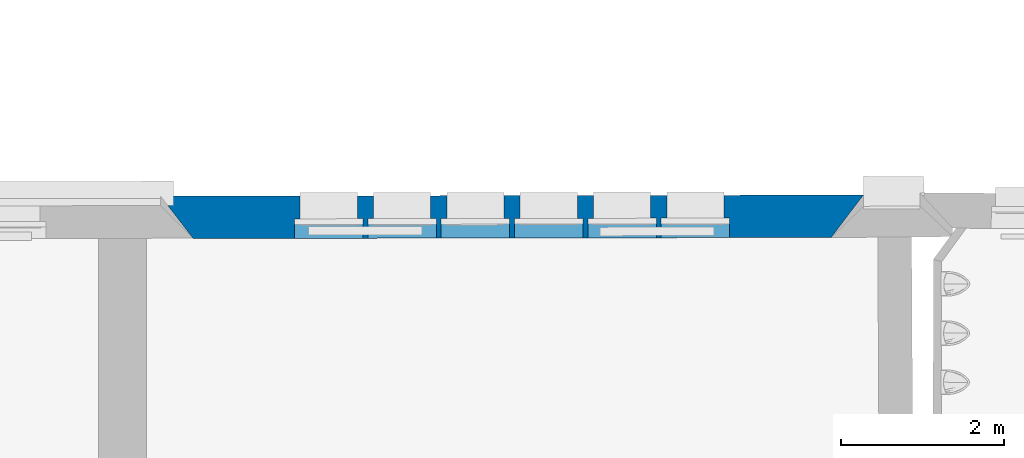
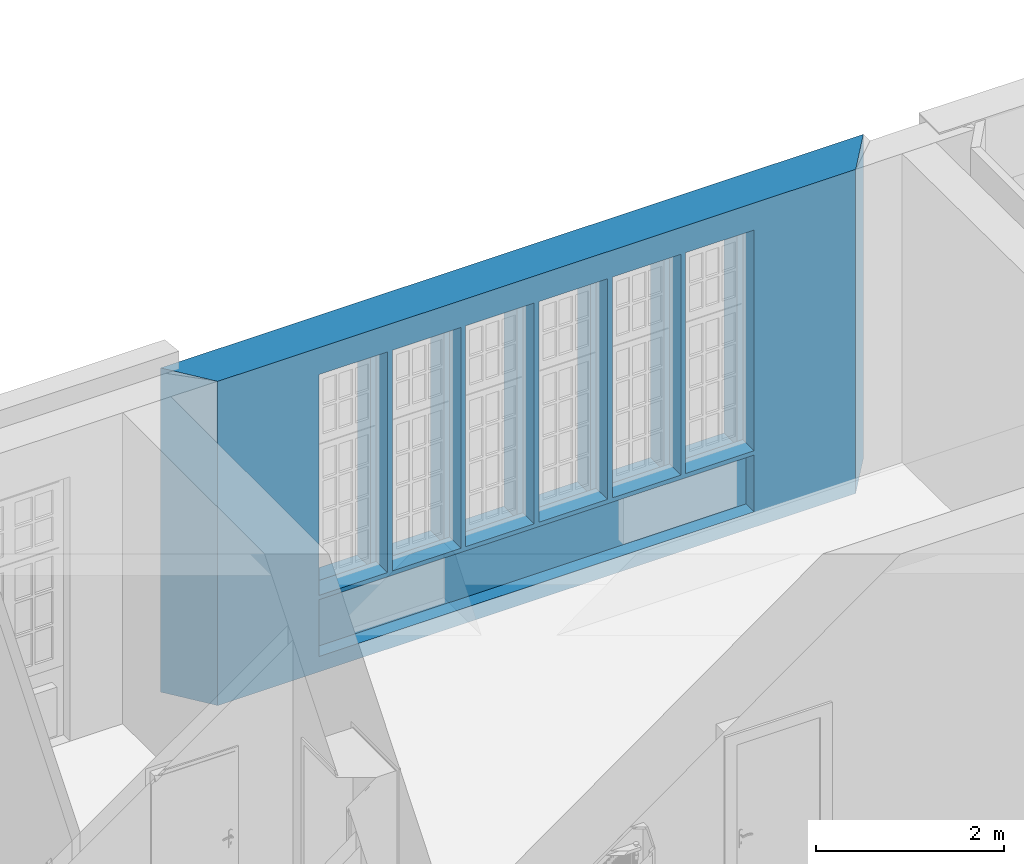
# One storey, part 34 of 90: 1 wall, 7 openings.
"""IFC2X3 building model written with IfcOpenShell, lengths in metres."""

from ifc_helpers import new_model, entity, si_unit, converted_unit, derived_unit, money_unit, direction, frame, origin_with_axes, origin_2d_with_axis, place, context, subcontext, project, spatial, polyline, rectangle, outline, extrude, material, layer, layer_set, layer_usage, type_object, element, save


model = new_model("IFC2X3")

# Units and contexts
model_context = context("Model", 3, precision=1e-05, world=origin_with_axes(), true_north=direction((0.0, 1.0)))
body_context = subcontext(model_context, "Body", "Model", "MODEL_VIEW")
ifc_project = project(units=[si_unit("LENGTHUNIT", "METRE"), si_unit("AREAUNIT", "SQUARE_METRE"), si_unit("VOLUMEUNIT", "CUBIC_METRE"), converted_unit("PLANEANGLEUNIT", "DEGREE", entity("IfcPlaneAngleMeasure", 0.0174532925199), si_unit("PLANEANGLEUNIT", "RADIAN"), dimensions=[0, 0, 0, 0, 0, 0, 0]), money_unit("EUR"), converted_unit("TIMEUNIT", "Year", entity("IfcTimeMeasure", 31556926.0), si_unit("TIMEUNIT", "SECOND"), dimensions=[0, 0, 1, 0, 0, 0, 0]), si_unit("MASSUNIT", "GRAM", prefix="KILO"), si_unit("THERMODYNAMICTEMPERATUREUNIT", "DEGREE_CELSIUS"), si_unit("LUMINOUSINTENSITYUNIT", "LUMEN"), si_unit("ENERGYUNIT", "JOULE", prefix="MEGA"), derived_unit("THERMALCONDUCTANCEUNIT", [(si_unit("POWERUNIT", "WATT"), 1), (si_unit("LENGTHUNIT", "METRE"), -1), (si_unit("THERMODYNAMICTEMPERATUREUNIT", "KELVIN"), -1)]), derived_unit("SPECIFICHEATCAPACITYUNIT", [(si_unit("ENERGYUNIT", "JOULE"), 1), (si_unit("MASSUNIT", "GRAM", prefix="KILO"), -1), (si_unit("THERMODYNAMICTEMPERATUREUNIT", "KELVIN"), -1)]), derived_unit("MASSDENSITYUNIT", [(si_unit("MASSUNIT", "GRAM", prefix="KILO"), 1), (si_unit("VOLUMEUNIT", "CUBIC_METRE"), -1)])], contexts=[model_context])

# Site, building, storey
site_placement = place(None, origin_with_axes())
site = spatial("IfcSite", under=ifc_project, at=site_placement, Name="Gelände", CompositionType="ELEMENT")
building_placement = place(site_placement, origin_with_axes())
building = spatial("IfcBuilding", under=site, at=building_placement, Name="Gebäude", CompositionType="ELEMENT")
storey_placement = place(building_placement, frame((0.0, 0.0, 3.7), z_axis=(0.0, 0.0, 1.0), x_axis=(1.0, 0.0, 0.0)))
storey = spatial("IfcBuildingStorey", under=building, at=storey_placement, Name="1.OBERGESCHOSS", CompositionType="ELEMENT", Elevation=3.7)

# Wall, openings
ifc_material = material(Name="05_ALLGEMEIN - TRAGENDE BAUTEILE")
ifc_layer = layer(ifc_material, 0.52, ventilated="UNKNOWN")
ifc_layer_set = layer_set([ifc_layer], Name="05_ALLGEMEIN - TRAGENDE BAUTEILE 0.52")
ifc_layer_usage = layer_usage(ifc_layer_set, "AXIS2", "NEGATIVE", 0.52)
wall_type = type_object("IfcWallType", Name="05_ALLGEMEIN - TRAGENDE BAUTEILE 520", PredefinedType="ELEMENTEDWALL")
wall_placement = place(storey_placement, frame((12.3515106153, 26.2024372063, -0.1), z_axis=(0.0, 0.0, 1.0), x_axis=(-0.999998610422, -0.00166707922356, 0.0)))
wall = element("IfcWallStandardCase", 1, at=wall_placement, inside=storey, type_object=wall_type, material=ifc_layer_usage, Name="Wand-036", ObjectType="ELEMENTEDWALL", context=body_context, shape_type="SweptSolid", body=[
    extrude(outline(polyline([(0.0, 0.0), (8.62098742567, 0.0), (8.22185375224, 0.52), (0.396027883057, 0.52), (0.0, 0.0)])), origin_with_axes(), (0.0, 0.0, 1.0), 4.2),
])
opening_1_placement = place(wall_placement, frame((2.06101299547, 0.0, 0.991568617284), z_axis=(0.0, 0.0, 1.0), x_axis=(1.0, 0.0, 0.0)))
element("IfcOpeningElement", 2, at=opening_1_placement, cuts=wall, Name="Fenster-015", context=body_context, shape_type="SweptSolid", body=[
    extrude(rectangle(XDim=0.700207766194, YDim=2.79, at=origin_2d_with_axis()), frame((0.0, 0.28, 1.335), z_axis=(0.0, 1.0, 0.0), x_axis=(1.0, 0.0, 0.0)), (0.0, 0.0, -1.0), 0.8),
    extrude(rectangle(XDim=0.840207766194, YDim=2.86, at=origin_2d_with_axis()), frame((0.0, 0.35, 1.43), z_axis=(0.0, -1.0, 0.0), x_axis=(1.0, 0.0, 0.0)), (0.0, 0.0, -1.0), 0.69),
    extrude(rectangle(XDim=0.840207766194, YDim=2.8, at=origin_2d_with_axis()), frame((0.0, 0.28, 1.4), z_axis=(0.0, 1.0, 0.0), x_axis=(1.0, 0.0, 0.0)), (0.0, 0.0, 1.0), 0.07),
])
opening_2_placement = place(wall_placement, frame((2.96052250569, 0.0, 0.991568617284), z_axis=(0.0, 0.0, 1.0), x_axis=(1.0, 0.0, 0.0)))
element("IfcOpeningElement", 3, at=opening_2_placement, cuts=wall, Name="Fenster-015", context=body_context, shape_type="SweptSolid", body=[
    extrude(rectangle(XDim=0.700207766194, YDim=2.79, at=origin_2d_with_axis()), frame((0.0, 0.28, 1.335), z_axis=(0.0, 1.0, 0.0), x_axis=(1.0, 0.0, 0.0)), (0.0, 0.0, -1.0), 0.8),
    extrude(rectangle(XDim=0.840207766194, YDim=2.86, at=origin_2d_with_axis()), frame((0.0, 0.35, 1.43), z_axis=(0.0, -1.0, 0.0), x_axis=(1.0, 0.0, 0.0)), (0.0, 0.0, -1.0), 0.69),
    extrude(rectangle(XDim=0.840207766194, YDim=2.8, at=origin_2d_with_axis()), frame((0.0, 0.28, 1.4), z_axis=(0.0, 1.0, 0.0), x_axis=(1.0, 0.0, 0.0)), (0.0, 0.0, 1.0), 0.07),
])
opening_3_placement = place(wall_placement, frame((3.86003201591, 0.0, 0.991568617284), z_axis=(0.0, 0.0, 1.0), x_axis=(1.0, 0.0, 0.0)))
element("IfcOpeningElement", 4, at=opening_3_placement, cuts=wall, Name="Fenster-015", context=body_context, shape_type="SweptSolid", body=[
    extrude(rectangle(XDim=0.700207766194, YDim=2.79, at=origin_2d_with_axis()), frame((0.0, 0.28, 1.335), z_axis=(0.0, 1.0, 0.0), x_axis=(1.0, 0.0, 0.0)), (0.0, 0.0, -1.0), 0.8),
    extrude(rectangle(XDim=0.840207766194, YDim=2.86, at=origin_2d_with_axis()), frame((0.0, 0.35, 1.43), z_axis=(0.0, -1.0, 0.0), x_axis=(1.0, 0.0, 0.0)), (0.0, 0.0, -1.0), 0.69),
    extrude(rectangle(XDim=0.840207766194, YDim=2.8, at=origin_2d_with_axis()), frame((0.0, 0.28, 1.4), z_axis=(0.0, 1.0, 0.0), x_axis=(1.0, 0.0, 0.0)), (0.0, 0.0, 1.0), 0.07),
])
opening_4_placement = place(wall_placement, frame((4.75954152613, 0.0, 0.991568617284), z_axis=(0.0, 0.0, 1.0), x_axis=(1.0, 0.0, 0.0)))
element("IfcOpeningElement", 5, at=opening_4_placement, cuts=wall, Name="Fenster-015", context=body_context, shape_type="SweptSolid", body=[
    extrude(rectangle(XDim=0.700207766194, YDim=2.79, at=origin_2d_with_axis()), frame((0.0, 0.28, 1.335), z_axis=(0.0, 1.0, 0.0), x_axis=(1.0, 0.0, 0.0)), (0.0, 0.0, -1.0), 0.8),
    extrude(rectangle(XDim=0.840207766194, YDim=2.86, at=origin_2d_with_axis()), frame((0.0, 0.35, 1.43), z_axis=(0.0, -1.0, 0.0), x_axis=(1.0, 0.0, 0.0)), (0.0, 0.0, -1.0), 0.69),
    extrude(rectangle(XDim=0.840207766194, YDim=2.8, at=origin_2d_with_axis()), frame((0.0, 0.28, 1.4), z_axis=(0.0, 1.0, 0.0), x_axis=(1.0, 0.0, 0.0)), (0.0, 0.0, 1.0), 0.07),
])
opening_5_placement = place(wall_placement, frame((5.65905103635, 0.0, 0.991568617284), z_axis=(0.0, 0.0, 1.0), x_axis=(1.0, 0.0, 0.0)))
element("IfcOpeningElement", 6, at=opening_5_placement, cuts=wall, Name="Fenster-015", context=body_context, shape_type="SweptSolid", body=[
    extrude(rectangle(XDim=0.700207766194, YDim=2.79, at=origin_2d_with_axis()), frame((0.0, 0.28, 1.335), z_axis=(0.0, 1.0, 0.0), x_axis=(1.0, 0.0, 0.0)), (0.0, 0.0, -1.0), 0.8),
    extrude(rectangle(XDim=0.840207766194, YDim=2.86, at=origin_2d_with_axis()), frame((0.0, 0.35, 1.43), z_axis=(0.0, -1.0, 0.0), x_axis=(1.0, 0.0, 0.0)), (0.0, 0.0, -1.0), 0.69),
    extrude(rectangle(XDim=0.840207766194, YDim=2.8, at=origin_2d_with_axis()), frame((0.0, 0.28, 1.4), z_axis=(0.0, 1.0, 0.0), x_axis=(1.0, 0.0, 0.0)), (0.0, 0.0, 1.0), 0.07),
])
opening_6_placement = place(wall_placement, frame((6.55856054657, 0.0, 0.991568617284), z_axis=(0.0, 0.0, 1.0), x_axis=(1.0, 0.0, 0.0)))
element("IfcOpeningElement", 7, at=opening_6_placement, cuts=wall, Name="Fenster-015", context=body_context, shape_type="SweptSolid", body=[
    extrude(rectangle(XDim=0.700207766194, YDim=2.79, at=origin_2d_with_axis()), frame((0.0, 0.28, 1.335), z_axis=(0.0, 1.0, 0.0), x_axis=(1.0, 0.0, 0.0)), (0.0, 0.0, -1.0), 0.8),
    extrude(rectangle(XDim=0.840207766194, YDim=2.86, at=origin_2d_with_axis()), frame((0.0, 0.35, 1.43), z_axis=(0.0, -1.0, 0.0), x_axis=(1.0, 0.0, 0.0)), (0.0, 0.0, -1.0), 0.69),
    extrude(rectangle(XDim=0.840207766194, YDim=2.8, at=origin_2d_with_axis()), frame((0.0, 0.28, 1.4), z_axis=(0.0, 1.0, 0.0), x_axis=(1.0, 0.0, 0.0)), (0.0, 0.0, 1.0), 0.07),
])
opening_7_placement = place(wall_placement, frame((4.30978677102, 0.0, 0.2), z_axis=(0.0, 0.0, 1.0), x_axis=(1.0, 0.0, 0.0)))
element("IfcOpeningElement", 8, at=opening_7_placement, cuts=wall, Name="Fenster-018", ObjectType="Recess", context=body_context, shape_type="SweptSolid", body=[
    extrude(rectangle(XDim=5.33775531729, YDim=0.736041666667, at=origin_2d_with_axis()), frame((0.0, 0.35, 0.368020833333), z_axis=(0.0, 1.0, 0.0), x_axis=(-1.0, 0.0, 0.0)), (0.0, 0.0, 1.0), 0.69),
])

save(model, "model.ifc")
